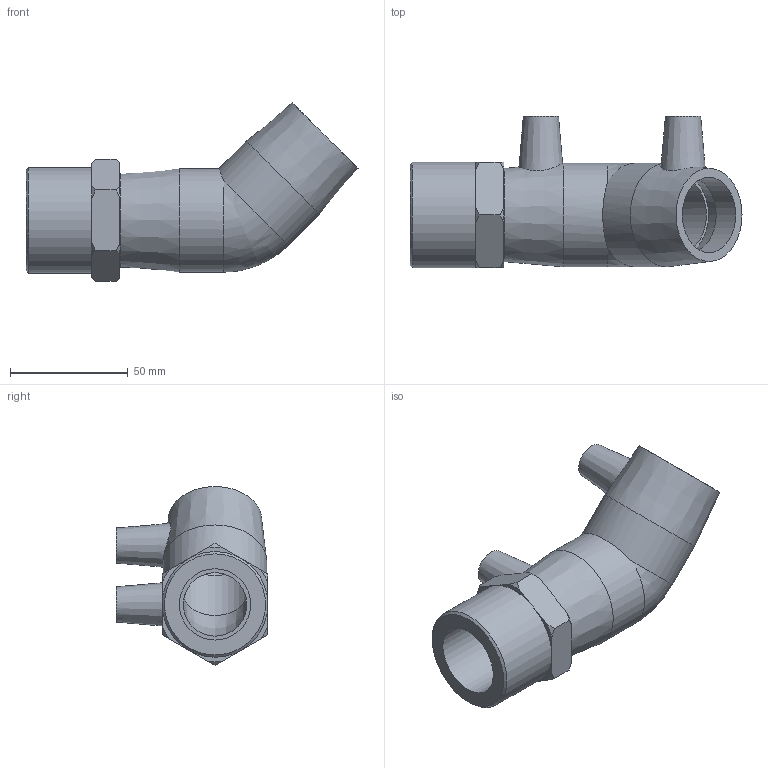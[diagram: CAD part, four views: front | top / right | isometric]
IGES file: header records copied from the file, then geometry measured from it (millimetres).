
Global section: file name: 493604032010N.ipt; native system: Autodesk Inventor 2015; preprocessor: unknown; author: KIM; date: 20200202.122454; units: millimetre
Bounding box: 141 x 64.44 x 75.95 mm (x, y, z)
Volume: 122114.6 mm3; surface area: 40388.4 mm2
Topology: 1 solids, 2 shells, 61 faces, 150 edges, 100 vertices
Faces by surface type: plane 27, cone 17, revolution 9, cylinder 7, bspline 1
Full cylindrical faces by diameter (mm): 4 x2, 32 x2, 44 x2, 44.88 x1
